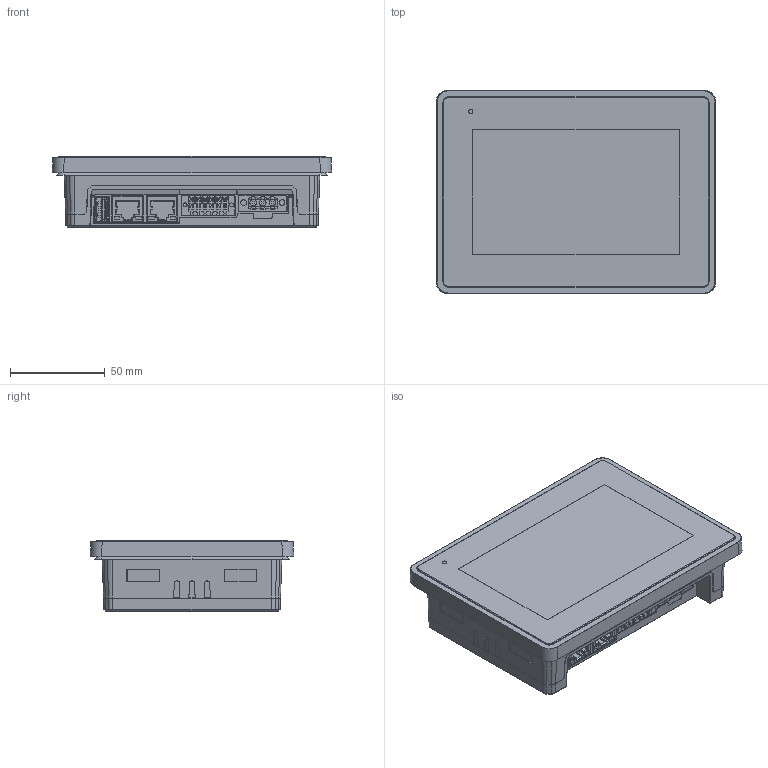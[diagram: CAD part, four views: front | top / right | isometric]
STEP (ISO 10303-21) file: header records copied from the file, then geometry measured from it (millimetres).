
FILE_DESCRIPTION (( 'STEP AP214' ), '1' );
FILE_NAME ('HMeX205 Standard.STEP', '2024-02-16T08:11:57', ( '' ), ( '' ), 'SwSTEP 2.0', 'SolidWorks 2023', '' );
FILE_SCHEMA (( 'AUTOMOTIVE_DESIGN' ));
Length unit declared in the file: millimetre
Products named in the file (1): HMeX205 Standard
Bounding box: 147.36 x 107.36 x 37.85 mm (x, y, z)
Volume: 461763.4 mm3; surface area: 72650.6 mm2
Topology: 1 solids, 15 shells, 3496 faces, 9284 edges, 5915 vertices
Faces by surface type: plane 2178, cylinder 645, bspline 334, cone 162, torus 135, sphere 42
Entity records: 115661 total; most frequent: CARTESIAN_POINT 31318, ORIENTED_EDGE 18496, DIRECTION 16025, EDGE_CURVE 9248, LINE 6517, VECTOR 6517, VERTEX_POINT 5915, AXIS2_PLACEMENT_3D 4754
